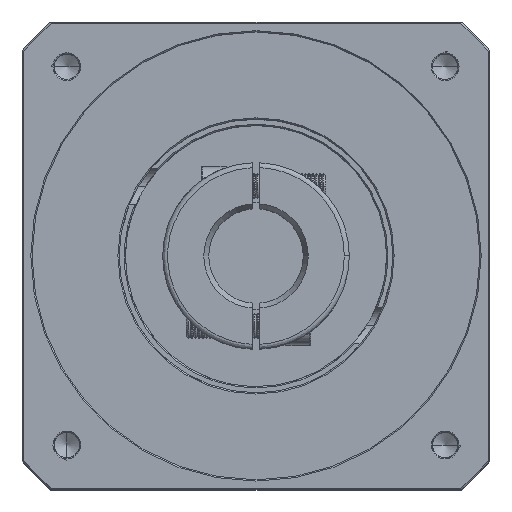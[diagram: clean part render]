
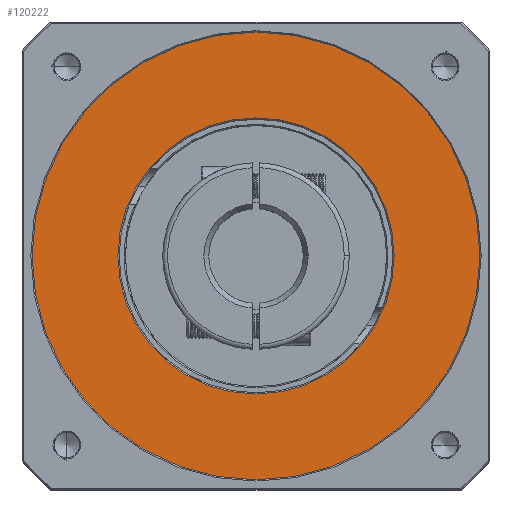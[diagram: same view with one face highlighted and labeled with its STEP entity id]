
A CAD part, top view. The second image highlights one B-rep face of the part: STEP entity #120222.
In plain terms, the highlighted planar face has unit normal (0, 0, 1).
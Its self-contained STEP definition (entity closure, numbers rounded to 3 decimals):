
#4916 = DIRECTION ( 'NONE',  ( 1., 0., 0. ) ) ;
#6187 = CARTESIAN_POINT ( 'NONE',  ( -51.294, 103.65, 45.009 ) ) ;
#14351 = DIRECTION ( 'NONE',  ( 0., 0., -1. ) ) ;
#17273 = VERTEX_POINT ( 'NONE', #55494 ) ;
#19208 = AXIS2_PLACEMENT_3D ( 'NONE', #112909, #73042, #33151 ) ;
#19277 = CIRCLE ( 'NONE', #19208, 90. ) ;
#32644 = ORIENTED_EDGE ( 'NONE', *, *, #47675, .T. ) ;
#33151 = DIRECTION ( 'NONE',  ( 1., 0., 0. ) ) ;
#34179 = EDGE_CURVE ( 'NONE', #103269, #17273, #38953, .T. ) ;
#37201 = CARTESIAN_POINT ( 'NONE',  ( -162.294, 103.65, 45.009 ) ) ;
#38953 = CIRCLE ( 'NONE', #86789, 90. ) ;
#47675 = EDGE_CURVE ( 'NONE', #76281, #75181, #128354, .T. ) ;
#48554 = EDGE_CURVE ( 'NONE', #17273, #103269, #19277, .T. ) ;
#50376 = CIRCLE ( 'NONE', #125765, 55.5 ) ;
#51377 = FACE_BOUND ( 'NONE', #61503, .T. ) ;
#53192 = ORIENTED_EDGE ( 'NONE', *, *, #126334, .T. ) ;
#55494 = CARTESIAN_POINT ( 'NONE',  ( -16.794, 103.65, 45.009 ) ) ;
#55953 = FACE_OUTER_BOUND ( 'NONE', #63303, .T. ) ;
#61503 = EDGE_LOOP ( 'NONE', ( #53192, #32644 ) ) ;
#63303 = EDGE_LOOP ( 'NONE', ( #77066, #102472 ) ) ;
#64309 = DIRECTION ( 'NONE',  ( 0., 0., -1. ) ) ;
#66450 = PLANE ( 'NONE',  #125364 ) ;
#73042 = DIRECTION ( 'NONE',  ( 0., 0., 1. ) ) ;
#75181 = VERTEX_POINT ( 'NONE', #6187 ) ;
#76281 = VERTEX_POINT ( 'NONE', #37201 ) ;
#76427 = DIRECTION ( 'NONE',  ( 0., 0., 1. ) ) ;
#77066 = ORIENTED_EDGE ( 'NONE', *, *, #48554, .T. ) ;
#86789 = AXIS2_PLACEMENT_3D ( 'NONE', #122981, #122124, #102641 ) ;
#87253 = CARTESIAN_POINT ( 'NONE',  ( -196.794, 103.65, 45.009 ) ) ;
#93843 = AXIS2_PLACEMENT_3D ( 'NONE', #115311, #14351, #122690 ) ;
#102472 = ORIENTED_EDGE ( 'NONE', *, *, #34179, .T. ) ;
#102641 = DIRECTION ( 'NONE',  ( 1., 0., 0. ) ) ;
#103269 = VERTEX_POINT ( 'NONE', #87253 ) ;
#104639 = CARTESIAN_POINT ( 'NONE',  ( -106.794, 103.65, 45.009 ) ) ;
#112909 = CARTESIAN_POINT ( 'NONE',  ( -106.794, 103.65, 45.009 ) ) ;
#115311 = CARTESIAN_POINT ( 'NONE',  ( -106.794, 103.65, 45.009 ) ) ;
#120222 = ADVANCED_FACE ( 'NONE', ( #51377, #55953 ), #66450, .T. ) ;
#122124 = DIRECTION ( 'NONE',  ( 0., 0., 1. ) ) ;
#122690 = DIRECTION ( 'NONE',  ( 1., 0., 0. ) ) ;
#122981 = CARTESIAN_POINT ( 'NONE',  ( -106.794, 103.65, 45.009 ) ) ;
#123688 = CARTESIAN_POINT ( 'NONE',  ( -106.794, 103.65, 45.009 ) ) ;
#124534 = DIRECTION ( 'NONE',  ( 1., 0., 0. ) ) ;
#125364 = AXIS2_PLACEMENT_3D ( 'NONE', #104639, #76427, #124534 ) ;
#125765 = AXIS2_PLACEMENT_3D ( 'NONE', #123688, #64309, #4916 ) ;
#126334 = EDGE_CURVE ( 'NONE', #75181, #76281, #50376, .T. ) ;
#128354 = CIRCLE ( 'NONE', #93843, 55.5 ) ;
